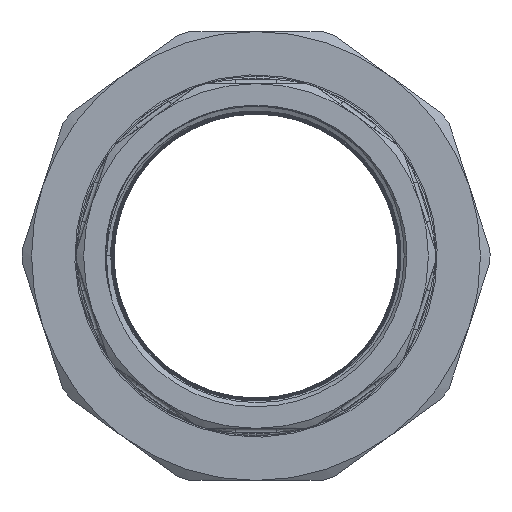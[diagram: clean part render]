
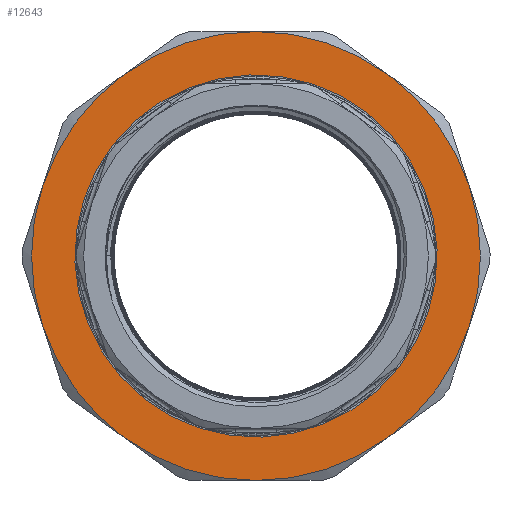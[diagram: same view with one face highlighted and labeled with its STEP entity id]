
A CAD part, front view. The second image highlights one B-rep face of the part: STEP entity #12643.
In plain terms, the highlighted planar face has unit normal (0, -1, 0) as drawn and (0, 1, 0) by its records, which use the part's own axes.
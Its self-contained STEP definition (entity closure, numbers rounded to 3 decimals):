
#1501 = AXIS2_PLACEMENT_3D ( 'NONE', #17323, #15396, #48032 ) ;
#1706 = CARTESIAN_POINT ( 'NONE',  ( 0., 29.5, 0. ) ) ;
#2148 = EDGE_CURVE ( 'NONE', #5830, #16092, #9052, .T. ) ;
#3052 = EDGE_CURVE ( 'NONE', #28164, #47217, #41522, .T. ) ;
#3110 = ORIENTED_EDGE ( 'NONE', *, *, #42479, .F. ) ;
#3258 = CIRCLE ( 'NONE', #1501, 56. ) ;
#3781 = DIRECTION ( 'NONE',  ( 0., 1., 0. ) ) ;
#4072 = CIRCLE ( 'NONE', #17055, 45.2 ) ;
#4637 = CARTESIAN_POINT ( 'NONE',  ( 53.259, 29.5, -17.305 ) ) ;
#5503 = CARTESIAN_POINT ( 'NONE',  ( -32.916, 29.5, -45.305 ) ) ;
#5506 = DIRECTION ( 'NONE',  ( 0., 1., 0. ) ) ;
#5685 = AXIS2_PLACEMENT_3D ( 'NONE', #26207, #25946, #47690 ) ;
#5830 = VERTEX_POINT ( 'NONE', #42249 ) ;
#6512 = CIRCLE ( 'NONE', #36868, 56. ) ;
#6513 = EDGE_CURVE ( 'NONE', #7797, #5830, #40546, .T. ) ;
#6559 = CIRCLE ( 'NONE', #43855, 56. ) ;
#7738 = CARTESIAN_POINT ( 'NONE',  ( -53.259, 29.5, -17.305 ) ) ;
#7797 = VERTEX_POINT ( 'NONE', #53217 ) ;
#7846 = DIRECTION ( 'NONE',  ( 0., 0., 1. ) ) ;
#8174 = DIRECTION ( 'NONE',  ( 0., 1., 0. ) ) ;
#8456 = CIRCLE ( 'NONE', #38809, 56. ) ;
#9052 = CIRCLE ( 'NONE', #42015, 56. ) ;
#10754 = AXIS2_PLACEMENT_3D ( 'NONE', #1706, #14422, #31017 ) ;
#11911 = CARTESIAN_POINT ( 'NONE',  ( 0., 29.5, 0. ) ) ;
#12308 = ORIENTED_EDGE ( 'NONE', *, *, #3052, .T. ) ;
#12643 = ADVANCED_FACE ( 'NONE', ( #12760, #45664 ), #36970, .T. ) ;
#12760 = FACE_BOUND ( 'NONE', #49159, .T. ) ;
#12916 = CARTESIAN_POINT ( 'NONE',  ( 32.916, 29.5, 45.305 ) ) ;
#13143 = ORIENTED_EDGE ( 'NONE', *, *, #13496, .T. ) ;
#13314 = DIRECTION ( 'NONE',  ( 0., 1., 0. ) ) ;
#13496 = EDGE_CURVE ( 'NONE', #21865, #38887, #8456, .T. ) ;
#13907 = ORIENTED_EDGE ( 'NONE', *, *, #14545, .T. ) ;
#14406 = ORIENTED_EDGE ( 'NONE', *, *, #6513, .T. ) ;
#14422 = DIRECTION ( 'NONE',  ( 0., 1., 0. ) ) ;
#14545 = EDGE_CURVE ( 'NONE', #26336, #14943, #52697, .T. ) ;
#14631 = CARTESIAN_POINT ( 'NONE',  ( 0., 29.5, 45.2 ) ) ;
#14943 = VERTEX_POINT ( 'NONE', #4637 ) ;
#15039 = DIRECTION ( 'NONE',  ( 0., 1., 0. ) ) ;
#15198 = CIRCLE ( 'NONE', #5685, 56. ) ;
#15396 = DIRECTION ( 'NONE',  ( 0., 1., 0. ) ) ;
#16092 = VERTEX_POINT ( 'NONE', #5503 ) ;
#17055 = AXIS2_PLACEMENT_3D ( 'NONE', #42664, #21985, #38579 ) ;
#17165 = DIRECTION ( 'NONE',  ( 0., 0., 1. ) ) ;
#17323 = CARTESIAN_POINT ( 'NONE',  ( 0., 29.5, 0. ) ) ;
#18178 = CARTESIAN_POINT ( 'NONE',  ( 0., 29.5, 0. ) ) ;
#20771 = EDGE_CURVE ( 'NONE', #14943, #7797, #6559, .T. ) ;
#20911 = CARTESIAN_POINT ( 'NONE',  ( 0., 29.5, 0. ) ) ;
#21375 = DIRECTION ( 'NONE',  ( 0., 0., 1. ) ) ;
#21445 = DIRECTION ( 'NONE',  ( 0., 0., 1. ) ) ;
#21865 = VERTEX_POINT ( 'NONE', #43317 ) ;
#21985 = DIRECTION ( 'NONE',  ( 0., 1., 0. ) ) ;
#22781 = CARTESIAN_POINT ( 'NONE',  ( 0., 29.5, 0. ) ) ;
#24334 = ORIENTED_EDGE ( 'NONE', *, *, #32837, .T. ) ;
#24523 = VERTEX_POINT ( 'NONE', #29726 ) ;
#25946 = DIRECTION ( 'NONE',  ( 0., 1., 0. ) ) ;
#26207 = CARTESIAN_POINT ( 'NONE',  ( 0., 29.5, 0. ) ) ;
#26312 = DIRECTION ( 'NONE',  ( 0., 1., 0. ) ) ;
#26336 = VERTEX_POINT ( 'NONE', #28114 ) ;
#26343 = DIRECTION ( 'NONE',  ( 0., 0., 1. ) ) ;
#27281 = CARTESIAN_POINT ( 'NONE',  ( 0., 29.5, 0. ) ) ;
#27678 = DIRECTION ( 'NONE',  ( 0., 1., 0. ) ) ;
#28114 = CARTESIAN_POINT ( 'NONE',  ( 53.259, 29.5, 17.305 ) ) ;
#28164 = VERTEX_POINT ( 'NONE', #51448 ) ;
#29009 = CARTESIAN_POINT ( 'NONE',  ( 0., 29.5, 0. ) ) ;
#29126 = EDGE_CURVE ( 'NONE', #39457, #21865, #47011, .T. ) ;
#29614 = CARTESIAN_POINT ( 'NONE',  ( 0., 29.5, 0. ) ) ;
#29726 = CARTESIAN_POINT ( 'NONE',  ( 0., 29.5, -45.2 ) ) ;
#30180 = VERTEX_POINT ( 'NONE', #14631 ) ;
#30660 = CARTESIAN_POINT ( 'NONE',  ( -32.916, 29.5, 45.305 ) ) ;
#31017 = DIRECTION ( 'NONE',  ( 0., 0., 1. ) ) ;
#31088 = EDGE_CURVE ( 'NONE', #16092, #39457, #6512, .T. ) ;
#31509 = ORIENTED_EDGE ( 'NONE', *, *, #44685, .T. ) ;
#32703 = CARTESIAN_POINT ( 'NONE',  ( 0., 29.5, 0. ) ) ;
#32837 = EDGE_CURVE ( 'NONE', #38887, #28164, #15198, .T. ) ;
#33819 = ORIENTED_EDGE ( 'NONE', *, *, #2148, .T. ) ;
#34463 = AXIS2_PLACEMENT_3D ( 'NONE', #50528, #26312, #34477 ) ;
#34477 = DIRECTION ( 'NONE',  ( 0., 0., 1. ) ) ;
#36739 = EDGE_CURVE ( 'NONE', #24523, #30180, #39531, .T. ) ;
#36868 = AXIS2_PLACEMENT_3D ( 'NONE', #27281, #15039, #44673 ) ;
#36970 = PLANE ( 'NONE',  #45811 ) ;
#37168 = AXIS2_PLACEMENT_3D ( 'NONE', #29009, #50468, #21375 ) ;
#38579 = DIRECTION ( 'NONE',  ( 0., 0., 1. ) ) ;
#38809 = AXIS2_PLACEMENT_3D ( 'NONE', #32703, #5506, #17165 ) ;
#38887 = VERTEX_POINT ( 'NONE', #30660 ) ;
#39457 = VERTEX_POINT ( 'NONE', #7738 ) ;
#39531 = CIRCLE ( 'NONE', #49130, 45.2 ) ;
#40546 = CIRCLE ( 'NONE', #52798, 56. ) ;
#41522 = CIRCLE ( 'NONE', #37168, 56. ) ;
#42015 = AXIS2_PLACEMENT_3D ( 'NONE', #11911, #3781, #7846 ) ;
#42249 = CARTESIAN_POINT ( 'NONE',  ( 0., 29.5, -56. ) ) ;
#42479 = EDGE_CURVE ( 'NONE', #30180, #24523, #4072, .T. ) ;
#42664 = CARTESIAN_POINT ( 'NONE',  ( 0., 29.5, 0. ) ) ;
#43317 = CARTESIAN_POINT ( 'NONE',  ( -53.259, 29.5, 17.305 ) ) ;
#43855 = AXIS2_PLACEMENT_3D ( 'NONE', #22781, #27678, #52669 ) ;
#44047 = ORIENTED_EDGE ( 'NONE', *, *, #36739, .F. ) ;
#44673 = DIRECTION ( 'NONE',  ( 0., 0., 1. ) ) ;
#44685 = EDGE_CURVE ( 'NONE', #47217, #26336, #3258, .T. ) ;
#45664 = FACE_OUTER_BOUND ( 'NONE', #46616, .T. ) ;
#45667 = DIRECTION ( 'NONE',  ( 0., 1., 0. ) ) ;
#45811 = AXIS2_PLACEMENT_3D ( 'NONE', #20911, #8174, #49472 ) ;
#46616 = EDGE_LOOP ( 'NONE', ( #24334, #12308, #31509, #13907, #51072, #14406, #33819, #47764, #47894, #13143 ) ) ;
#47011 = CIRCLE ( 'NONE', #10754, 56. ) ;
#47217 = VERTEX_POINT ( 'NONE', #12916 ) ;
#47690 = DIRECTION ( 'NONE',  ( 0., 0., 1. ) ) ;
#47764 = ORIENTED_EDGE ( 'NONE', *, *, #31088, .T. ) ;
#47894 = ORIENTED_EDGE ( 'NONE', *, *, #29126, .T. ) ;
#48032 = DIRECTION ( 'NONE',  ( 0., 0., 1. ) ) ;
#49130 = AXIS2_PLACEMENT_3D ( 'NONE', #18178, #13314, #26343 ) ;
#49159 = EDGE_LOOP ( 'NONE', ( #3110, #44047 ) ) ;
#49472 = DIRECTION ( 'NONE',  ( 0., 0., 1. ) ) ;
#50468 = DIRECTION ( 'NONE',  ( 0., 1., 0. ) ) ;
#50528 = CARTESIAN_POINT ( 'NONE',  ( 0., 29.5, 0. ) ) ;
#51072 = ORIENTED_EDGE ( 'NONE', *, *, #20771, .T. ) ;
#51448 = CARTESIAN_POINT ( 'NONE',  ( 0., 29.5, 56. ) ) ;
#52669 = DIRECTION ( 'NONE',  ( 0., 0., 1. ) ) ;
#52697 = CIRCLE ( 'NONE', #34463, 56. ) ;
#52798 = AXIS2_PLACEMENT_3D ( 'NONE', #29614, #45667, #21445 ) ;
#53217 = CARTESIAN_POINT ( 'NONE',  ( 32.916, 29.5, -45.305 ) ) ;
